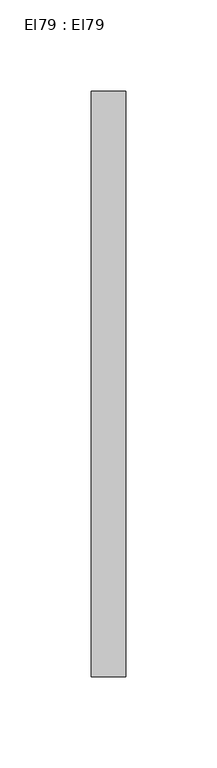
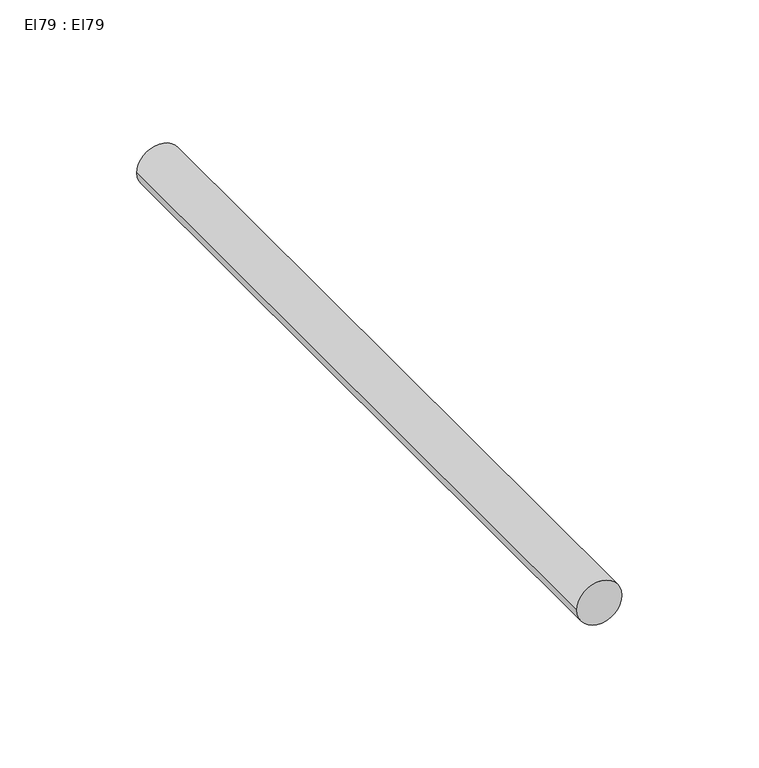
"""IFC4 building model written with IfcOpenShell, lengths in millimetres: cable carrier segment geometry, El79 : El79."""

import ifcopenshell
import ifcopenshell.guid

model = None  # the IFC model being written
_history = None  # IfcOwnerHistory: only IFC2X3 demands one
_inside = {}  # id of a spatial element -> (the spatial element, [elements in it])
_under = {}  # id of a project, library or spatial element -> (it, [spatial elements below it])
_declared = {}  # id of a project -> (the project, [libraries it declares])
_typed = {}  # id of a type object -> (the type object, [elements of that type])
_made_of = {}  # id of a material, layer set ... -> (it, [elements and type objects made of it])


def new_model(schema):
    """Start an empty IFC model of exactly this schema.

    Asked for "IFC4X3", IfcOpenShell would pick the latest addendum, in which some entities
    have other attributes; the version numbers below select the first issue.
    IFC2X3 requires an IfcOwnerHistory on every rooted entity: one is made here for all.
    """
    global model, _history
    if schema == "IFC4X3":
        model = ifcopenshell.file(schema_version=(4, 3, 0, 0))
    else:
        model = ifcopenshell.file(schema=schema)
    _inside.clear()
    _under.clear()
    _declared.clear()
    _typed.clear()
    _made_of.clear()
    _history = None
    if model.schema == "IFC2X3":
        org = make("IfcOrganization", Name="unknown")
        user = make(
            "IfcPersonAndOrganization",
            ThePerson=make("IfcPerson", FamilyName="unknown"),
            TheOrganization=org,
        )
        app = make(
            "IfcApplication",
            ApplicationDeveloper=org,
            Version="unknown",
            ApplicationFullName="unknown",
            ApplicationIdentifier="unknown",
        )
        _history = make(
            "IfcOwnerHistory",
            OwningUser=user,
            OwningApplication=app,
            ChangeAction="ADDED",
            CreationDate=0,
        )
    return model


def make(cls, **values):
    """One entity of the class cls with the attributes given. An attribute that is None is left unset."""
    return model.create_entity(
        cls, **{name: value for name, value in values.items() if value is not None}
    )


def rooted(cls, **values):
    """An entity with a GlobalId (a new one), such as an element, a storey or a relation."""
    return make(cls, GlobalId=ifcopenshell.guid.new(), OwnerHistory=_history, **values)


def si_unit(unit_type, name, prefix=None):
    """IfcSIUnit, for example si_unit("LENGTHUNIT", "METRE", prefix="MILLI")."""
    return make("IfcSIUnit", UnitType=unit_type, Prefix=prefix, Name=name)


def assignment(units):
    """IfcUnitAssignment: the units of a project."""
    return None if units is None else make("IfcUnitAssignment", Units=units)


def point(xyz):
    """IfcCartesianPoint."""
    return None if xyz is None else make("IfcCartesianPoint", Coordinates=xyz)


def direction(xyz):
    """IfcDirection."""
    return None if xyz is None else make("IfcDirection", DirectionRatios=xyz)


def frame(location, z_axis=None, x_axis=None):
    """IfcAxis2Placement3D, a coordinate frame: its origin and axes. An axis left out is left unset."""
    return make(
        "IfcAxis2Placement3D",
        Location=point(location),
        Axis=direction(z_axis),
        RefDirection=direction(x_axis),
    )


def frame_2d(location, x_axis=None):
    """IfcAxis2Placement2D, a coordinate frame in the plane: its origin and x axis."""
    return make(
        "IfcAxis2Placement2D", Location=point(location), RefDirection=direction(x_axis)
    )


def origin():
    """The frame at (0, 0, 0) with its axes left unset."""
    return frame((0.0, 0.0, 0.0))


def place(relative_to, where):
    """IfcLocalPlacement: puts the frame where relative to a parent placement (None: the world)."""
    return make(
        "IfcLocalPlacement", PlacementRelTo=relative_to, RelativePlacement=where
    )


def context(
    kind, dimensions, precision=None, world=None, true_north=None, identifier=None
):
    """IfcGeometricRepresentationContext, for example the 3D "Model" context."""
    return make(
        "IfcGeometricRepresentationContext",
        ContextIdentifier=identifier,
        ContextType=kind,
        CoordinateSpaceDimension=dimensions,
        Precision=precision,
        WorldCoordinateSystem=world,
        TrueNorth=true_north,
    )


def project(units=None, contexts=None):
    """IfcProject with its units and contexts."""
    return rooted(
        "IfcProject",
        Name="project",
        RepresentationContexts=contexts,
        UnitsInContext=assignment(units),
    )


def spatial(cls, under=None, at=None, **own):
    """A site, building, storey or space (cls), placed at a placement, below another one or the project."""
    s = rooted(cls, ObjectPlacement=at, **own)
    if under is not None:
        _under.setdefault(under.id(), (under, []))[1].append(s)
    return s


def circle_curve(where, radius):
    """IfcCircle in the frame where."""
    return make("IfcCircle", Position=where, Radius=radius)


def trimmed(basis, trim1, trim2, sense, master):
    """IfcTrimmedCurve: the piece of a basis curve between two trims."""
    return make(
        "IfcTrimmedCurve",
        BasisCurve=basis,
        Trim1=trim1,
        Trim2=trim2,
        SenseAgreement=sense,
        MasterRepresentation=master,
    )


def segment(curve, same_sense, transition):
    """IfcCompositeCurveSegment."""
    return make(
        "IfcCompositeCurveSegment",
        Transition=transition,
        SameSense=same_sense,
        ParentCurve=curve,
    )


def composite_curve(segments, self_intersect=None):
    """IfcCompositeCurve: segments joined end to end."""
    return make("IfcCompositeCurve", Segments=segments, SelfIntersect=self_intersect)


def outline(outer, holes=None, kind="AREA"):
    """IfcArbitraryClosedProfileDef: a profile drawn as a closed curve; with holes, ...WithVoids."""
    if holes is None:
        return make("IfcArbitraryClosedProfileDef", ProfileType=kind, OuterCurve=outer)
    return make(
        "IfcArbitraryProfileDefWithVoids",
        ProfileType=kind,
        OuterCurve=outer,
        InnerCurves=holes,
    )


def extrude(swept, where, along, depth):
    """IfcExtrudedAreaSolid: the profile swept, set in the frame where, extruded along a direction by depth."""
    return make(
        "IfcExtrudedAreaSolid",
        SweptArea=swept,
        Position=where,
        ExtrudedDirection=direction(along),
        Depth=depth,
    )


def shape(context_of_items, identifier, shape_type, items):
    """IfcShapeRepresentation: the items that make up one representation, for example the "Body"."""
    return make(
        "IfcShapeRepresentation",
        ContextOfItems=context_of_items,
        RepresentationIdentifier=identifier,
        RepresentationType=shape_type,
        Items=items,
    )


def source(mapping_origin, context_of_items, identifier, shape_type, items):
    """IfcRepresentationMap: a shape defined once, which mapped items show again and again."""
    return make(
        "IfcRepresentationMap",
        MappingOrigin=mapping_origin,
        MappedRepresentation=shape(context_of_items, identifier, shape_type, items),
    )


def transform(
    local_origin,
    x_axis=None,
    y_axis=None,
    z_axis=None,
    scale=None,
    scale2=None,
    scale3=None,
    uniform=True,
):
    """IfcCartesianTransformationOperator3D, or its non-uniform kind. x_axis, y_axis, z_axis: its Axis1, 2, 3."""
    if uniform:
        return make(
            "IfcCartesianTransformationOperator3D",
            Axis1=direction(x_axis),
            Axis2=direction(y_axis),
            LocalOrigin=point(local_origin),
            Scale=scale,
            Axis3=direction(z_axis),
        )
    return make(
        "IfcCartesianTransformationOperator3DnonUniform",
        Axis1=direction(x_axis),
        Axis2=direction(y_axis),
        LocalOrigin=point(local_origin),
        Scale=scale,
        Axis3=direction(z_axis),
        Scale2=scale2,
        Scale3=scale3,
    )


def mapped(mapping_source, mapping_target):
    """IfcMappedItem: shows the shape of a source again, moved by a transform."""
    return make(
        "IfcMappedItem", MappingSource=mapping_source, MappingTarget=mapping_target
    )


def made_of(thing, what):
    """Note that an element or type object is made of a material, layer set ...; save() writes the relation."""
    if what is not None:
        _made_of.setdefault(what.id(), (what, []))[1].append(thing)
    return thing


def element(
    cls,
    number,
    at=None,
    inside=None,
    cuts=None,
    type_object=None,
    material=None,
    context=None,
    identifier="Body",
    shape_type=None,
    held_by="IfcProductDefinitionShape",
    body=None,
    shapes=None,
    **own,
):
    """One element of the class cls, such as IfcWall. Its Tag is "e" and its number.

    at: its placement. inside: the storey or other place that contains it. cuts: it is an
    opening in that element (IfcRelVoidsElement). A single representation is given by context,
    identifier, shape_type and body (its items); several are given by shapes. held_by: the class
    of the entity that holds the representations. save() writes the other relations.
    """
    e = rooted(cls, Tag="e%d" % number, ObjectPlacement=at, **own)
    if body is not None:
        shapes = [shape(context, identifier, shape_type, body)]
    if shapes is not None:
        e.Representation = make(held_by, Representations=shapes)
    if inside is not None:
        _inside.setdefault(inside.id(), (inside, []))[1].append(e)
    if cuts is not None:
        rooted(
            "IfcRelVoidsElement", RelatingBuildingElement=cuts, RelatedOpeningElement=e
        )
    if type_object is not None:
        _typed.setdefault(type_object.id(), (type_object, []))[1].append(e)
    return made_of(e, material)


def aggregate(whole, parts):
    """IfcRelAggregates: a whole, such as a stair, and the parts it consists of."""
    return rooted("IfcRelAggregates", RelatingObject=whole, RelatedObjects=parts)


def save(model, path):
    """Write the relations noted so far, then the file.

    IfcRelAggregates (storeys below a building ...), IfcRelContainedInSpatialStructure (elements
    in a storey), IfcRelDefinesByType, IfcRelAssociatesMaterial and IfcRelDeclares: one each for
    every whole, place, type object, material and project.
    """
    for whole, parts in _under.values():
        aggregate(whole, parts)
    for where, things in _inside.values():
        rooted(
            "IfcRelContainedInSpatialStructure",
            RelatedElements=things,
            RelatingStructure=where,
        )
    for kind, things in _typed.values():
        rooted("IfcRelDefinesByType", RelatedObjects=things, RelatingType=kind)
    for what, things in _made_of.values():
        rooted("IfcRelAssociatesMaterial", RelatedObjects=things, RelatingMaterial=what)
    for by, libraries in _declared.values():
        rooted("IfcRelDeclares", RelatingContext=by, RelatedDefinitions=libraries)
    model.write(path)


def el79_el79_29cd09e3(model_context):
    return source(origin(), model_context, "Body", "SweptSolid", [
        extrude(outline(composite_curve([segment(trimmed(circle_curve(frame_2d((300.0, 16300.0)), 9.5), [point((300.0, 16290.5))], [point((300.0, 16309.5))], False, "CARTESIAN"), True, "CONTINUOUS"), segment(trimmed(circle_curve(frame_2d((300.0, 16300.0)), 9.5), [point((300.0, 16309.5))], [point((300.0, 16290.5))], False, "CARTESIAN"), True, "CONTINUOUS")], self_intersect=False)), frame((0.0, 17522.541, 0.0), z_axis=(0.0, 1.0, 0.0), x_axis=(0.0, 0.0, 1.0)), (0.0, 0.0, 1.0), 321.917),
    ])


if __name__ == "__main__":
    model = new_model("IFC4")
    model_context = context("Model", 3, world=origin())
    ifc_project = project(units=[si_unit("LENGTHUNIT", "METRE", prefix="MILLI")], contexts=[model_context])
    site = spatial("IfcSite", under=ifc_project)
    building = spatial("IfcBuilding", under=site)
    placement = place(None, origin())
    el79_el79_shape = el79_el79_29cd09e3(model_context)
    element("IfcCableCarrierSegment", 1, ObjectType="El79 : El79", at=placement, inside=building, context=model_context, shape_type="MappedRepresentation", body=[
        mapped(el79_el79_shape, transform((0.0, 0.0, 0.0), x_axis=(1.0, 0.0, 0.0), y_axis=(0.0, 1.0, 0.0), z_axis=(0.0, 0.0, 1.0))),
    ])
    save(model, "model.ifc")
